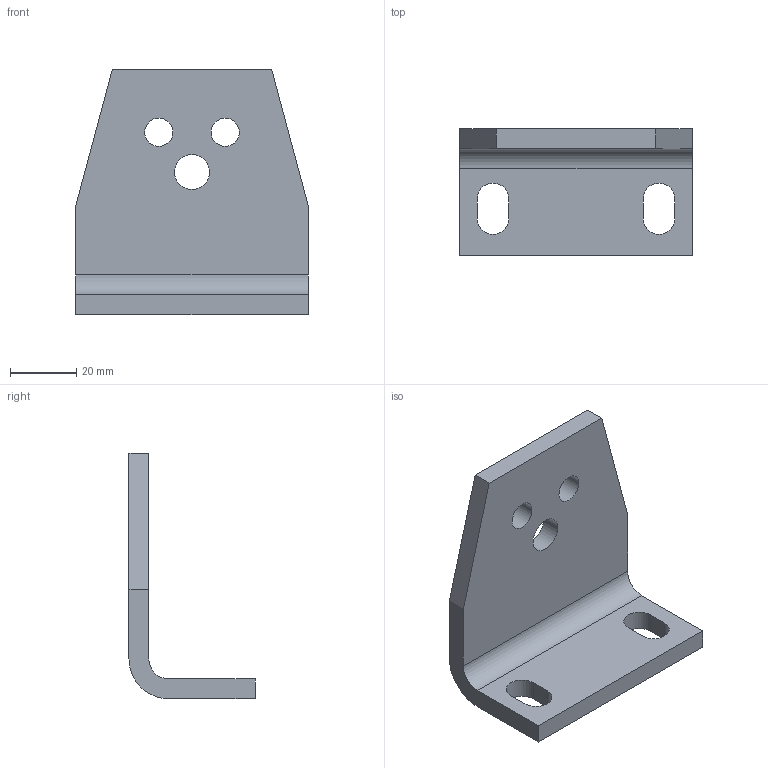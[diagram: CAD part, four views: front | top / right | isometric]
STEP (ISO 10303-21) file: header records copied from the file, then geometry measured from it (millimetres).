
FILE_DESCRIPTION((''),'2;1');
FILE_NAME('\\rostaofc\data\uw\save\daten_f\Normprogramm 3D\Gummifederelemente\Support-WS18-27_06590003.stp','2004-09-28T08:18:33',('uw'),(''),'Autodesk Inventor 8','Autodesk Inventor 8','');
FILE_SCHEMA(('AUTOMOTIVE_DESIGN { 1 0 10303 214 1 1 1 1 }'));
Length unit declared in the file: millimetre
Products named in the file (1): 4_4_6868-000
Bounding box: 70 x 38 x 74 mm (x, y, z)
Volume: 37453.2 mm3; surface area: 15455.8 mm2
Topology: 1 solids, 1 shells, 26 faces, 72 edges, 48 vertices
Faces by surface type: plane 13, bspline 7, cylinder 6
Entity records: 961 total; most frequent: CARTESIAN_POINT 252, ORIENTED_EDGE 144, DIRECTION 136, EDGE_CURVE 72, VERTEX_POINT 48, VECTOR 48, LINE 48, AXIS2_PLACEMENT_3D 44
